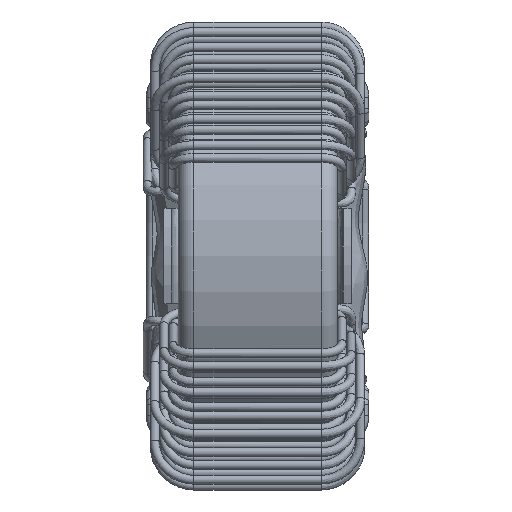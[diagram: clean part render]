
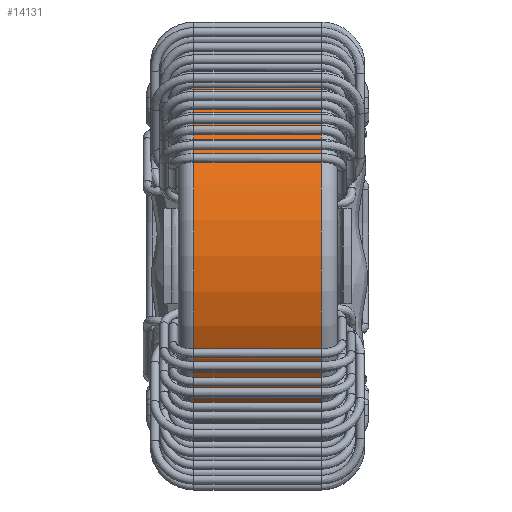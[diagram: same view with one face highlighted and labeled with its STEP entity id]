
A CAD part, top view. The second image highlights one B-rep face of the part: STEP entity #14131.
In plain terms, the highlighted cylindrical face has radius 6.5 mm (diameter 13 mm), a full revolution.
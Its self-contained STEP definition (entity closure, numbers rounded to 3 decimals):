
#1956=CYLINDRICAL_SURFACE('',#23693,6.5);
#5078=ORIENTED_EDGE('',*,*,#6638,.T.);
#5079=ORIENTED_EDGE('',*,*,#6637,.F.);
#6637=EDGE_CURVE('',#7927,#7927,#8870,.T.);
#6638=EDGE_CURVE('',#7928,#7928,#8871,.T.);
#7927=VERTEX_POINT('',#63744);
#7928=VERTEX_POINT('',#63747);
#8870=CIRCLE('',#23681,6.5);
#8871=CIRCLE('',#23683,6.5);
#10869=EDGE_LOOP('',(#5078));
#10870=EDGE_LOOP('',(#5079));
#12865=FACE_BOUND('',#10869,.T.);
#12866=FACE_BOUND('',#10870,.T.);
#14131=ADVANCED_FACE('',(#12865,#12866),#1956,.T.);
#23681=AXIS2_PLACEMENT_3D('',#63743,#27629,#27630);
#23683=AXIS2_PLACEMENT_3D('',#63746,#27633,#27634);
#23693=AXIS2_PLACEMENT_3D('',#63762,#27653,#27654);
#27629=DIRECTION('',(0.,1.,0.));
#27630=DIRECTION('',(0.,0.,1.));
#27633=DIRECTION('',(0.,1.,0.));
#27634=DIRECTION('',(0.,0.,1.));
#27653=DIRECTION('',(0.,1.,0.));
#27654=DIRECTION('',(0.,0.,1.));
#63743=CARTESIAN_POINT('',(0.,2.,10.025));
#63744=CARTESIAN_POINT('',(0.,2.,16.525));
#63746=CARTESIAN_POINT('',(0.,-2.,10.025));
#63747=CARTESIAN_POINT('',(0.,-2.,16.525));
#63762=CARTESIAN_POINT('',(0.,-2.5,10.025));
